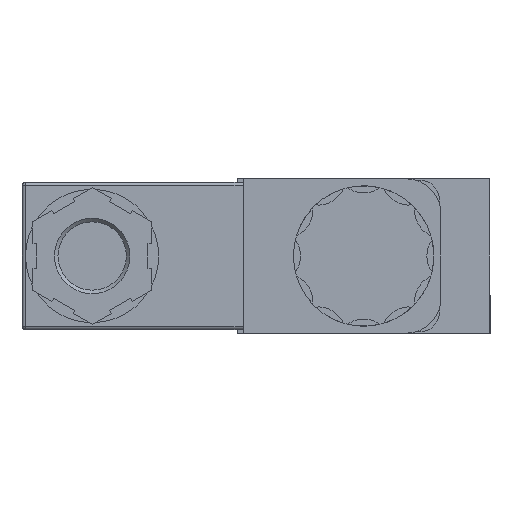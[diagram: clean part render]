
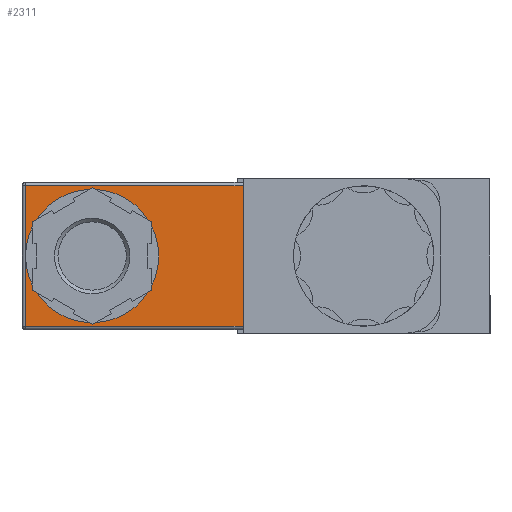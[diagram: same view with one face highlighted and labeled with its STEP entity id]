
A CAD part, left-side view. The second image highlights one B-rep face of the part: STEP entity #2311.
In plain terms, the highlighted planar face has unit normal (-1, 0, 0) as drawn and (0, 0, 1) by its records, which use the part's own axes.
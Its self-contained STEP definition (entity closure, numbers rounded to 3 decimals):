
#2311 = ADVANCED_FACE( '    FACE', ( #5702 ), #5703, .F. );
#2679 = EDGE_CURVE( '', #6295, #6296, #6297, .T. );
#3205 = EDGE_CURVE( '  SPLINE', #7065, #7065, #7066, .F. );
#5702 = FACE_OUTER_BOUND( '', #11010, .T. );
#5703 = PLANE( '', #11011 );
#6295 = VERTEX_POINT( '', #12031 );
#6296 = VERTEX_POINT( '', #12032 );
#6297 = LINE( '', #12033, #12034 );
#7065 = VERTEX_POINT( '', #13475 );
#7066 = CIRCLE( '', #13476, 9.5 );
#11010 = EDGE_LOOP( '', ( #18784, #18785, #18786, #18787, #18788, #18789 ) );
#11011 = AXIS2_PLACEMENT_3D( '', #18790, #18791, #18792 );
#12031 = CARTESIAN_POINT( '', ( 17., 14.5, 29.25 ) );
#12032 = CARTESIAN_POINT( '', ( -3., 14.5, 29.25 ) );
#12033 = CARTESIAN_POINT( '', ( 14.5, 14.5, 29.25 ) );
#12034 = VECTOR( '', #19433, 1000. );
#13475 = CARTESIAN_POINT( '', ( 7., -16.5, 29.25 ) );
#13476 = AXIS2_PLACEMENT_3D( '', #20357, #20358, #20359 );
#18784 = ORIENTED_EDGE( '', *, *, #2679, .T. );
#18785 = ORIENTED_EDGE( '', *, *, #23306, .T. );
#18786 = ORIENTED_EDGE( '', *, *, #23307, .T. );
#18787 = ORIENTED_EDGE( '', *, *, #3205, .F. );
#18788 = ORIENTED_EDGE( '', *, *, #23308, .T. );
#18789 = ORIENTED_EDGE( '', *, *, #23309, .T. );
#18790 = CARTESIAN_POINT( '', ( 0.755, -14., 29.25 ) );
#18791 = DIRECTION( '', ( 0., 0., -1. ) );
#18792 = DIRECTION( '', ( -1., 0., 0. ) );
#19433 = DIRECTION( '', ( -1., 0., 0. ) );
#20357 = CARTESIAN_POINT( '', ( 7., -7., 29.25 ) );
#20358 = DIRECTION( '', ( 0., 0., -1. ) );
#20359 = DIRECTION( '', ( -1., 0., 0. ) );
#23306 = EDGE_CURVE( '', #6296, #26552, #26553, .F. );
#23307 = EDGE_CURVE( '', #26552, #7065, #26554, .F. );
#23308 = EDGE_CURVE( '', #7065, #26555, #26556, .F. );
#23309 = EDGE_CURVE( '', #26555, #6295, #26557, .F. );
#26552 = VERTEX_POINT( '', #27696 );
#26553 = LINE( '', #27697, #27698 );
#26554 = LINE( '', #27699, #27700 );
#26555 = VERTEX_POINT( '', #27701 );
#26556 = LINE( '', #27702, #27703 );
#26557 = LINE( '', #27704, #27705 );
#27696 = CARTESIAN_POINT( '', ( -3., -16.5, 29.25 ) );
#27697 = CARTESIAN_POINT( '', ( -3., -14., 29.25 ) );
#27698 = VECTOR( '', #29678, 1000. );
#27699 = CARTESIAN_POINT( '', ( 17.5, -16.5, 29.25 ) );
#27700 = VECTOR( '', #29679, 1000. );
#27701 = CARTESIAN_POINT( '', ( 17., -16.5, 29.25 ) );
#27702 = CARTESIAN_POINT( '', ( 17.5, -16.5, 29.25 ) );
#27703 = VECTOR( '', #29680, 1000. );
#27704 = CARTESIAN_POINT( '', ( 17., -14., 29.25 ) );
#27705 = VECTOR( '', #29681, 1000. );
#29678 = DIRECTION( '', ( 0., 1., 0. ) );
#29679 = DIRECTION( '', ( -1., 0., 0. ) );
#29680 = DIRECTION( '', ( -1., 0., 0. ) );
#29681 = DIRECTION( '', ( 0., -1., 0. ) );
